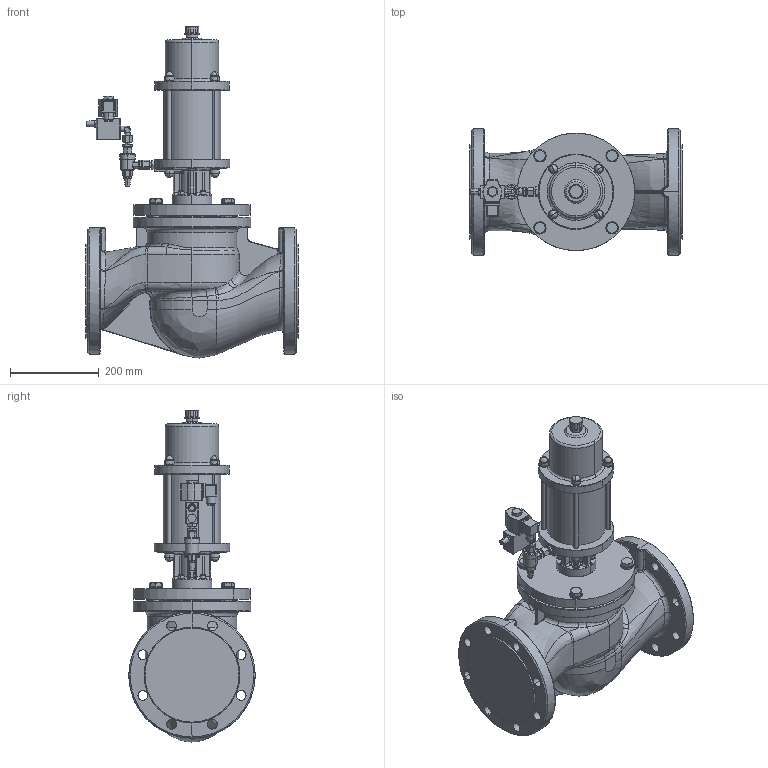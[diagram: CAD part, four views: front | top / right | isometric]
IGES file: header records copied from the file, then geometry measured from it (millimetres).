
Global section: file name: No Iges File Name specified; native system: AutoDesk Inventor R12.0; preprocessor: AutoDesk Inventor Iges Exporter R12.0; date: 20100210.141309; units: millimetre
Bounding box: 480 x 285 x 749.05 mm (x, y, z)
Volume: 24796615 mm3; surface area: 1059098.1 mm2
Topology: 2 solids, 2 shells, 1404 faces, 3567 edges, 2177 vertices
Faces by surface type: plane 438, bspline 383, cylinder 263, cone 139, revolution 104, torus 52, sphere 25
